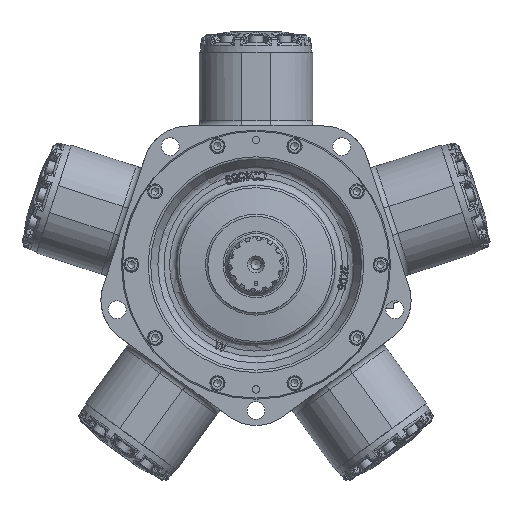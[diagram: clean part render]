
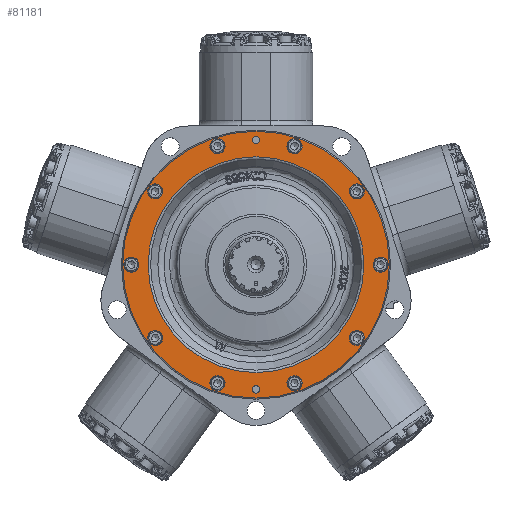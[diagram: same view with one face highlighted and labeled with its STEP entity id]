
A CAD part, top view. The second image highlights one B-rep face of the part: STEP entity #81181.
In plain terms, the highlighted planar face has unit normal (0, 0, 1).
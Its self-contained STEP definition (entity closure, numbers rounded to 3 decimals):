
#3121=FACE_BOUND('',#15431,.T.);
#3122=FACE_BOUND('',#15432,.T.);
#3123=FACE_BOUND('',#15433,.T.);
#3124=FACE_BOUND('',#15434,.T.);
#3125=FACE_BOUND('',#15435,.T.);
#3126=FACE_BOUND('',#15436,.T.);
#3127=FACE_BOUND('',#15437,.T.);
#3128=FACE_BOUND('',#15438,.T.);
#3129=FACE_BOUND('',#15439,.T.);
#3130=FACE_BOUND('',#15440,.T.);
#3131=FACE_BOUND('',#15441,.T.);
#3132=FACE_BOUND('',#15442,.T.);
#3133=FACE_BOUND('',#15443,.T.);
#5201=PLANE('',#88307);
#10015=FACE_OUTER_BOUND('',#15430,.T.);
#15430=EDGE_LOOP('',(#73193));
#15431=EDGE_LOOP('',(#73194));
#15432=EDGE_LOOP('',(#73195));
#15433=EDGE_LOOP('',(#73196));
#15434=EDGE_LOOP('',(#73197));
#15435=EDGE_LOOP('',(#73198));
#15436=EDGE_LOOP('',(#73199));
#15437=EDGE_LOOP('',(#73200));
#15438=EDGE_LOOP('',(#73201));
#15439=EDGE_LOOP('',(#73202));
#15440=EDGE_LOOP('',(#73203));
#15441=EDGE_LOOP('',(#73204));
#15442=EDGE_LOOP('',(#73205));
#15443=EDGE_LOOP('',(#73206));
#26960=CIRCLE('',#88118,120.896);
#27029=CIRCLE('',#88308,149.491);
#27030=CIRCLE('',#88309,4.188);
#27031=CIRCLE('',#88310,4.188);
#27032=CIRCLE('',#88311,8.5);
#27033=CIRCLE('',#88312,8.5);
#27034=CIRCLE('',#88313,8.5);
#27035=CIRCLE('',#88314,8.5);
#27036=CIRCLE('',#88315,8.5);
#27037=CIRCLE('',#88316,8.5);
#27038=CIRCLE('',#88317,8.5);
#27039=CIRCLE('',#88318,8.5);
#27040=CIRCLE('',#88319,8.5);
#27041=CIRCLE('',#88320,8.5);
#37471=VERTEX_POINT('',#199209);
#37923=VERTEX_POINT('',#202651);
#37924=VERTEX_POINT('',#202653);
#37925=VERTEX_POINT('',#202655);
#37926=VERTEX_POINT('',#202657);
#37927=VERTEX_POINT('',#202659);
#37928=VERTEX_POINT('',#202661);
#37929=VERTEX_POINT('',#202663);
#37930=VERTEX_POINT('',#202665);
#37931=VERTEX_POINT('',#202667);
#37932=VERTEX_POINT('',#202669);
#37933=VERTEX_POINT('',#202671);
#37934=VERTEX_POINT('',#202673);
#37935=VERTEX_POINT('',#202675);
#49088=EDGE_CURVE('',#37471,#37471,#26960,.T.);
#49765=EDGE_CURVE('',#37923,#37923,#27029,.T.);
#49766=EDGE_CURVE('',#37924,#37924,#27030,.T.);
#49767=EDGE_CURVE('',#37925,#37925,#27031,.T.);
#49768=EDGE_CURVE('',#37926,#37926,#27032,.T.);
#49769=EDGE_CURVE('',#37927,#37927,#27033,.T.);
#49770=EDGE_CURVE('',#37928,#37928,#27034,.T.);
#49771=EDGE_CURVE('',#37929,#37929,#27035,.T.);
#49772=EDGE_CURVE('',#37930,#37930,#27036,.T.);
#49773=EDGE_CURVE('',#37931,#37931,#27037,.T.);
#49774=EDGE_CURVE('',#37932,#37932,#27038,.T.);
#49775=EDGE_CURVE('',#37933,#37933,#27039,.T.);
#49776=EDGE_CURVE('',#37934,#37934,#27040,.T.);
#49777=EDGE_CURVE('',#37935,#37935,#27041,.T.);
#73193=ORIENTED_EDGE('',*,*,#49765,.F.);
#73194=ORIENTED_EDGE('',*,*,#49766,.T.);
#73195=ORIENTED_EDGE('',*,*,#49767,.T.);
#73196=ORIENTED_EDGE('',*,*,#49768,.T.);
#73197=ORIENTED_EDGE('',*,*,#49769,.T.);
#73198=ORIENTED_EDGE('',*,*,#49770,.T.);
#73199=ORIENTED_EDGE('',*,*,#49771,.T.);
#73200=ORIENTED_EDGE('',*,*,#49772,.T.);
#73201=ORIENTED_EDGE('',*,*,#49773,.T.);
#73202=ORIENTED_EDGE('',*,*,#49774,.T.);
#73203=ORIENTED_EDGE('',*,*,#49775,.T.);
#73204=ORIENTED_EDGE('',*,*,#49776,.T.);
#73205=ORIENTED_EDGE('',*,*,#49777,.T.);
#73206=ORIENTED_EDGE('',*,*,#49088,.T.);
#81181=ADVANCED_FACE('',(#10015,#3121,#3122,#3123,#3124,#3125,#3126,#3127,
#3128,#3129,#3130,#3131,#3132,#3133),#5201,.T.);
#88118=AXIS2_PLACEMENT_3D('',#199210,#105536,#105537);
#88307=AXIS2_PLACEMENT_3D('',#202650,#106199,#106200);
#88308=AXIS2_PLACEMENT_3D('',#202652,#106201,#106202);
#88309=AXIS2_PLACEMENT_3D('',#202654,#106203,#106204);
#88310=AXIS2_PLACEMENT_3D('',#202656,#106205,#106206);
#88311=AXIS2_PLACEMENT_3D('',#202658,#106207,#106208);
#88312=AXIS2_PLACEMENT_3D('',#202660,#106209,#106210);
#88313=AXIS2_PLACEMENT_3D('',#202662,#106211,#106212);
#88314=AXIS2_PLACEMENT_3D('',#202664,#106213,#106214);
#88315=AXIS2_PLACEMENT_3D('',#202666,#106215,#106216);
#88316=AXIS2_PLACEMENT_3D('',#202668,#106217,#106218);
#88317=AXIS2_PLACEMENT_3D('',#202670,#106219,#106220);
#88318=AXIS2_PLACEMENT_3D('',#202672,#106221,#106222);
#88319=AXIS2_PLACEMENT_3D('',#202674,#106223,#106224);
#88320=AXIS2_PLACEMENT_3D('',#202676,#106225,#106226);
#105536=DIRECTION('center_axis',(0.,0.,
-1.));
#105537=DIRECTION('ref_axis',(0.,-1.,0.));
#106199=DIRECTION('center_axis',(0.,0.,
1.));
#106200=DIRECTION('ref_axis',(-1.,0.,0.));
#106201=DIRECTION('center_axis',(0.,0.,
-1.));
#106202=DIRECTION('ref_axis',(0.,1.,0.));
#106203=DIRECTION('center_axis',(0.,0.,
-1.));
#106204=DIRECTION('ref_axis',(-1.,0.,0.));
#106205=DIRECTION('center_axis',(0.,0.,
-1.));
#106206=DIRECTION('ref_axis',(-1.,0.,0.));
#106207=DIRECTION('center_axis',(0.,0.,
-1.));
#106208=DIRECTION('ref_axis',(0.809,-0.588,0.));
#106209=DIRECTION('center_axis',(0.,0.,
-1.));
#106210=DIRECTION('ref_axis',(0.309,-0.951,0.));
#106211=DIRECTION('center_axis',(0.,0.,
-1.));
#106212=DIRECTION('ref_axis',(-0.309,-0.951,0.));
#106213=DIRECTION('center_axis',(0.,0.,
-1.));
#106214=DIRECTION('ref_axis',(-0.809,-0.588,0.));
#106215=DIRECTION('center_axis',(0.,0.,
-1.));
#106216=DIRECTION('ref_axis',(-1.,0.,0.));
#106217=DIRECTION('center_axis',(0.,0.,
-1.));
#106218=DIRECTION('ref_axis',(-0.809,0.588,0.));
#106219=DIRECTION('center_axis',(0.,0.,
-1.));
#106220=DIRECTION('ref_axis',(-0.309,0.951,0.));
#106221=DIRECTION('center_axis',(0.,0.,
-1.));
#106222=DIRECTION('ref_axis',(0.309,0.951,0.));
#106223=DIRECTION('center_axis',(0.,0.,
-1.));
#106224=DIRECTION('ref_axis',(0.809,0.588,0.));
#106225=DIRECTION('center_axis',(0.,0.,
-1.));
#106226=DIRECTION('ref_axis',(1.,0.,0.));
#199209=CARTESIAN_POINT('',(-120.896,0.,85.078));
#199210=CARTESIAN_POINT('Origin',(0.,0.,
85.078));
#202650=CARTESIAN_POINT('Origin',(0.,-135.854,
85.078));
#202651=CARTESIAN_POINT('',(0.,-149.491,85.078));
#202652=CARTESIAN_POINT('Origin',(0.,0.,
85.078));
#202653=CARTESIAN_POINT('',(4.188,-139.7,85.078));
#202654=CARTESIAN_POINT('Origin',(0.,-139.7,85.078));
#202655=CARTESIAN_POINT('',(4.188,139.7,85.078));
#202656=CARTESIAN_POINT('Origin',(0.,139.7,85.078));
#202657=CARTESIAN_POINT('',(-119.896,87.11,85.078));
#202658=CARTESIAN_POINT('Origin',(-113.02,82.114,85.078));
#202659=CARTESIAN_POINT('',(-45.796,140.947,85.078));
#202660=CARTESIAN_POINT('Origin',(-43.17,132.863,85.078));
#202661=CARTESIAN_POINT('',(45.796,140.947,85.078));
#202662=CARTESIAN_POINT('Origin',(43.17,132.863,85.078));
#202663=CARTESIAN_POINT('',(119.896,87.11,85.078));
#202664=CARTESIAN_POINT('Origin',(113.02,82.114,85.078));
#202665=CARTESIAN_POINT('',(148.2,0.,85.078));
#202666=CARTESIAN_POINT('Origin',(139.7,0.,85.078));
#202667=CARTESIAN_POINT('',(119.896,-87.11,85.078));
#202668=CARTESIAN_POINT('Origin',(113.02,-82.114,85.078));
#202669=CARTESIAN_POINT('',(45.796,-140.947,85.078));
#202670=CARTESIAN_POINT('Origin',(43.17,-132.863,85.078));
#202671=CARTESIAN_POINT('',(-45.796,-140.947,85.078));
#202672=CARTESIAN_POINT('Origin',(-43.17,-132.863,85.078));
#202673=CARTESIAN_POINT('',(-119.896,-87.11,85.078));
#202674=CARTESIAN_POINT('Origin',(-113.02,-82.114,85.078));
#202675=CARTESIAN_POINT('',(-148.2,0.,85.078));
#202676=CARTESIAN_POINT('Origin',(-139.7,0.,85.078));
